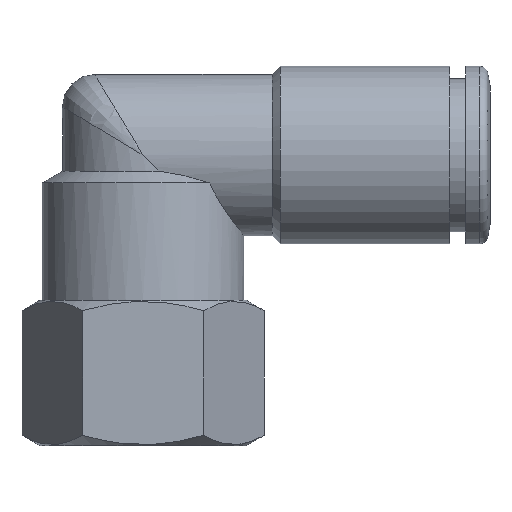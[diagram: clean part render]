
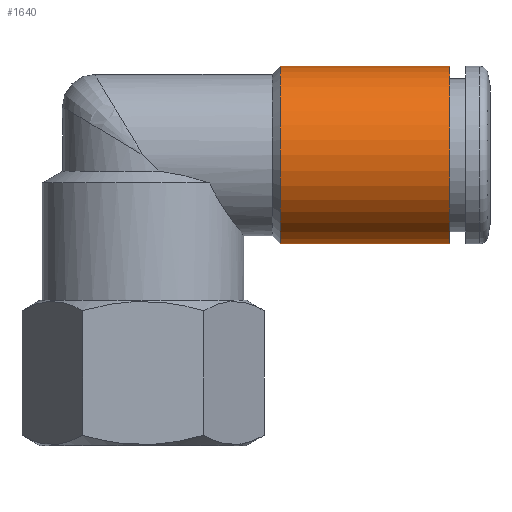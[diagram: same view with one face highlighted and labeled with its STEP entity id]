
A CAD part, front view. The second image highlights one B-rep face of the part: STEP entity #1640.
In plain terms, the highlighted cylindrical face has radius 5.5 mm (diameter 11 mm), a full revolution.
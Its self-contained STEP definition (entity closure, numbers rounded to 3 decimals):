
#1640=ADVANCED_FACE('', (#1650,#1660), #1670, .T.);
#4850=AXIS2_PLACEMENT_3D('Ax2Pl3d', #4860, #4870, #4880);
#5770=AXIS2_PLACEMENT_3D('Ax2Pl3d', #5780, #5790, #5800);
#5810=AXIS2_PLACEMENT_3D('Ax2Pl3d', #5820, #5830, #5840);
#4860=CARTESIAN_POINT('HicPkt', (32.754,11.921,
25.632));
#20100=CARTESIAN_POINT('', (32.754,11.921,31.132));
#5780=CARTESIAN_POINT('HicPkt', (32.754,11.921,
25.632));
#5820=CARTESIAN_POINT('HicPkt', (22.254,11.921,
25.632));
#20240=CARTESIAN_POINT('', (22.254,11.921,31.132));
#20860=CIRCLE('Circle', #4850, 5.5);
#20960=CIRCLE('Circle', #5810, 5.5);
#1670=CYLINDRICAL_SURFACE('Zyl', #5770, 5.5);
#4870=DIRECTION('Axis', (1.,0.,0.));
#4880=DIRECTION('RefDirection', (0.,-0.,-1.));
#5790=DIRECTION('Axis', (-1.,0.,0.))
;
#5800=DIRECTION('RefDirection', (0.,
0.,-1.));
#5830=DIRECTION('Axis', (1.,0.,0.));
#5840=DIRECTION('RefDirection', (0.,0.,-1.));
#24190=EDGE_CURVE('', #24200, #24200, #20860, .T.);
#24570=EDGE_CURVE('', #24580, #24580, #20960, .T.);
#26860=EDGE_LOOP('Edge_loop', (#26870));
#26880=EDGE_LOOP('Edge_loop', (#26890));
#1660=FACE_BOUND('', #26880, .T.);
#1650=FACE_OUTER_BOUND('Face_outer_bound', #26860, .T.);
#26870=ORIENTED_EDGE('', *, *, #24570, .T.);
#26890=ORIENTED_EDGE('', *, *, #24190, .F.);
#24200=VERTEX_POINT('', #20100);
#24580=VERTEX_POINT('', #20240);
